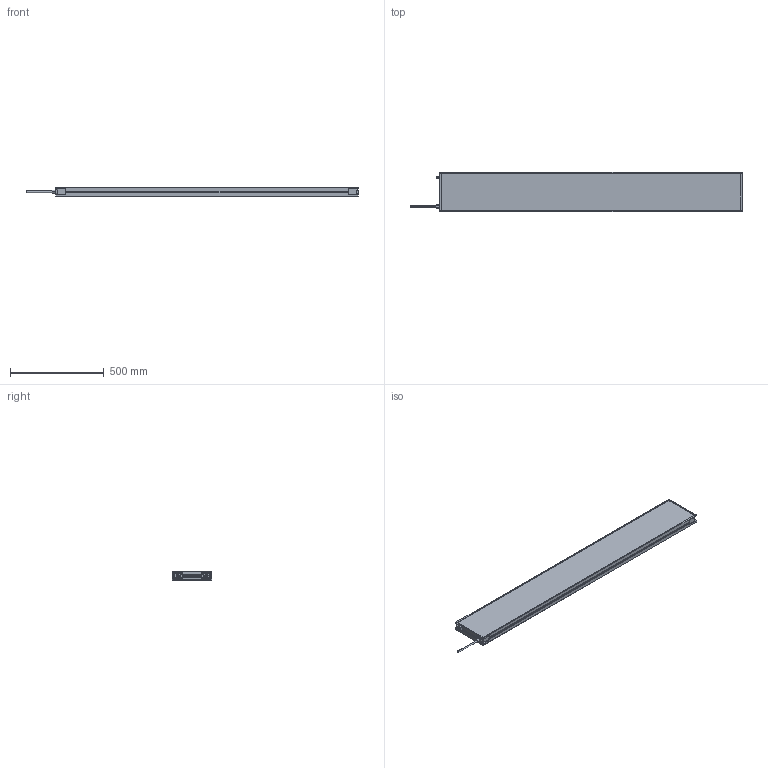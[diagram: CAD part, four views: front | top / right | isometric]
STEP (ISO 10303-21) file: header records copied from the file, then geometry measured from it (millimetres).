
FILE_DESCRIPTION (( 'STEP AP214' ), '1' );
FILE_NAME ('MBACK-xxxx-xxx-M1A2_CLIENT200x1600.STEP', '2022-04-01T11:30:18', ( '' ), ( '' ), 'SwSTEP 2.0', 'SolidWorks 2020', '' );
FILE_SCHEMA (( 'AUTOMOTIVE_DESIGN' ));
Length unit declared in the file: millimetre
Products named in the file (1): MBACK-xxxx-xxx-M1A2_CLIENT200x1600
Bounding box: 1767.4 x 208 x 45.5 mm (x, y, z)
Volume: 13865921.3 mm3; surface area: 916125.4 mm2
Topology: 1 solids, 1 shells, 470 faces, 1210 edges, 804 vertices
Faces by surface type: plane 265, cylinder 117, bspline 80, cone 8
Entity records: 18046 total; most frequent: CARTESIAN_POINT 6837, ORIENTED_EDGE 2420, DIRECTION 2082, EDGE_CURVE 1210, VERTEX_POINT 804, LINE 800, VECTOR 800, AXIS2_PLACEMENT_3D 641
